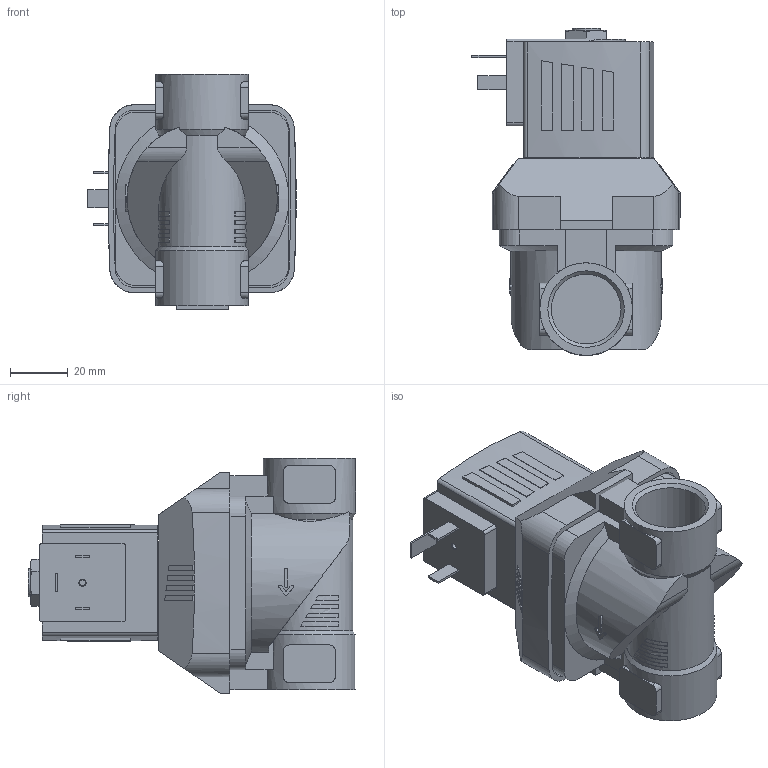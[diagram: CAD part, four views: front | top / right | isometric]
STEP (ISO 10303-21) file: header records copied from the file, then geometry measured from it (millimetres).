
FILE_DESCRIPTION( ( 'STEP AP214' ), '1' );
FILE_NAME( 'p:/temp/worker_6/temp/app_47_02018110116402273126371192d056f_000000_00_00_000000/format_0/6213-221638-2_2-Way-Solenoid-Valve_for_fluids.stp', '2018-11-01T15:40:24', ( '' ), ( '' ), ' ', 'PARTsolutions', ' ' );
FILE_SCHEMA( ( 'AUTOMOTIVE_DESIGN { 1 0 10303 214 1 1 1 1 }' ) );
Length unit declared in the file: millimetre
Products named in the file (4): 6213-221638-2/2-Way-Solenoid-Valve for fluids; HI_AC10ex-6NA38-Plan-Coil; _6213-20U3-2/2-Wege-Magnetventil-feur-Fluessigkeiten-und-Gase; HI_6213-20G3/4MS-Gehaeuse-
Assembly tree (3 placements, depth 2):
  6213-221638-2/2-Way-Solenoid-Valve for fluids
    HI_AC10ex-6NA38-Plan-Coil
    _6213-20U3-2/2-Wege-Magnetventil-feur-Fluessigkeiten-und-Gase
    HI_6213-20G3/4MS-Gehaeuse-
Bounding box: 72 x 113.1 x 81.3 mm (x, y, z)
Volume: 262044.9 mm3; surface area: 45815 mm2
Topology: 3 solids, 3 shells, 347 faces, 899 edges, 592 vertices
Faces by surface type: plane 254, cylinder 78, cone 15
Full cylindrical faces by diameter (mm): 2.013 x1, 9.74 x1, 21 x1, 24.117 x2, 32 x1
Entity records: 13724 total; most frequent: CARTESIAN_POINT 2307, DIRECTION 1776, ORIENTED_EDGE 1776, EDGE_CURVE 888, AXIS2_PLACEMENT_3D 597, VERTEX_POINT 590, LINE 582, VECTOR 582
